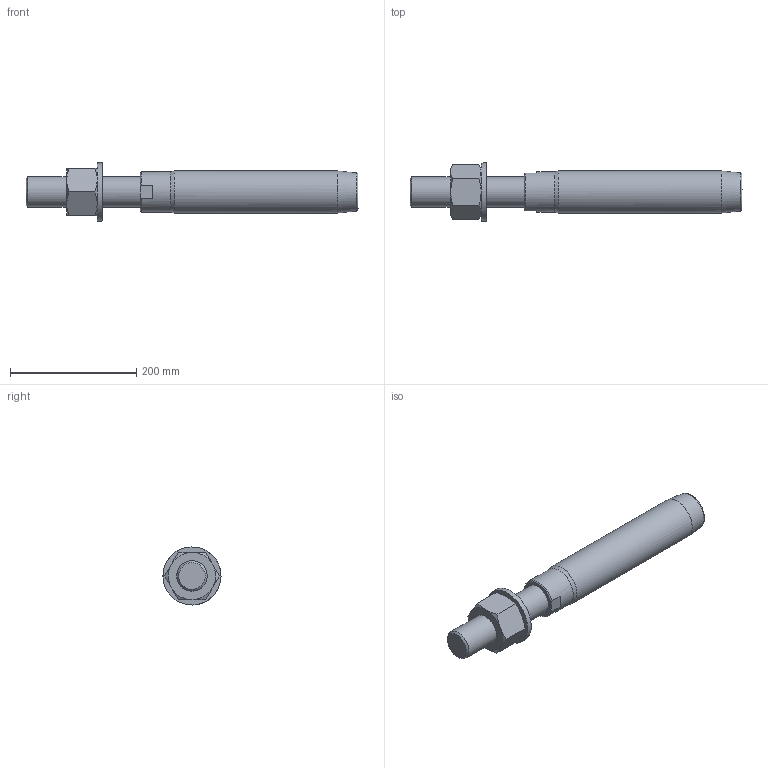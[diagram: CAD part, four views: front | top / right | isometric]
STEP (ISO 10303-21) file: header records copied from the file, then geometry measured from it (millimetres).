
FILE_DESCRIPTION(/* description */ (''),/* implementation_level */ '2;1');
FILE_NAME(/* name */ 'FLT 32_1,4462',/* time_stamp */ '2023-05-23T15:58:07+02:00',/* author */ (''),/* organization */ (''),/* preprocessor_version */ 'ST-DEVELOPER v16.5',/* originating_system */ 'Rhino 7.22',/* authorisation */ '');
FILE_SCHEMA (('CONFIG_CONTROL_DESIGN'));
Length unit declared in the file: millimetre
Products named in the file (1): Document
Bounding box: 526 x 91.97 x 91.97 mm (x, y, z)
Volume: 1700250.4 mm3; surface area: 142393.2 mm2
Topology: 3 solids, 3 shells, 43 faces, 104 edges, 68 vertices
Faces by surface type: bspline 20, plane 17, cylinder 6
Full cylindrical faces by diameter (mm): 44.752 x1, 48 x1, 50 x1, 63.5 x1, 66.8 x1, 92 x1
Entity records: 1590 total; most frequent: CARTESIAN_POINT 881, ORIENTED_EDGE 208, EDGE_CURVE 104, VERTEX_POINT 68, EDGE_LOOP 48, ADVANCED_FACE 43, FACE_OUTER_BOUND 43, DIRECTION 27
